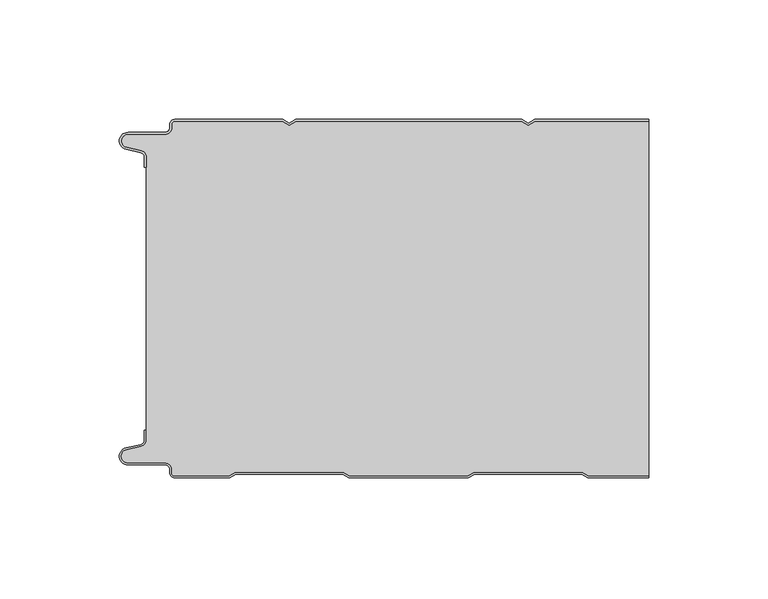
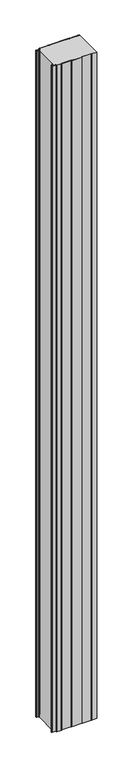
"""IFC4 building model written with IfcOpenShell, lengths in millimetres: plate geometry, PMH_Curtain-PaneL-Standard : ACH_PMH_Stone-wool-Panel_150M."""

import ifcopenshell
import ifcopenshell.guid

model = None  # the IFC model being written
_history = None  # IfcOwnerHistory: only IFC2X3 demands one
_inside = {}  # id of a spatial element -> (the spatial element, [elements in it])
_under = {}  # id of a project, library or spatial element -> (it, [spatial elements below it])
_declared = {}  # id of a project -> (the project, [libraries it declares])
_typed = {}  # id of a type object -> (the type object, [elements of that type])
_made_of = {}  # id of a material, layer set ... -> (it, [elements and type objects made of it])


def new_model(schema):
    """Start an empty IFC model of exactly this schema.

    Asked for "IFC4X3", IfcOpenShell would pick the latest addendum, in which some entities
    have other attributes; the version numbers below select the first issue.
    IFC2X3 requires an IfcOwnerHistory on every rooted entity: one is made here for all.
    """
    global model, _history
    if schema == "IFC4X3":
        model = ifcopenshell.file(schema_version=(4, 3, 0, 0))
    else:
        model = ifcopenshell.file(schema=schema)
    _inside.clear()
    _under.clear()
    _declared.clear()
    _typed.clear()
    _made_of.clear()
    _history = None
    if model.schema == "IFC2X3":
        org = make("IfcOrganization", Name="unknown")
        user = make(
            "IfcPersonAndOrganization",
            ThePerson=make("IfcPerson", FamilyName="unknown"),
            TheOrganization=org,
        )
        app = make(
            "IfcApplication",
            ApplicationDeveloper=org,
            Version="unknown",
            ApplicationFullName="unknown",
            ApplicationIdentifier="unknown",
        )
        _history = make(
            "IfcOwnerHistory",
            OwningUser=user,
            OwningApplication=app,
            ChangeAction="ADDED",
            CreationDate=0,
        )
    return model


def make(cls, **values):
    """One entity of the class cls with the attributes given. An attribute that is None is left unset."""
    return model.create_entity(
        cls, **{name: value for name, value in values.items() if value is not None}
    )


def rooted(cls, **values):
    """An entity with a GlobalId (a new one), such as an element, a storey or a relation."""
    return make(cls, GlobalId=ifcopenshell.guid.new(), OwnerHistory=_history, **values)


def si_unit(unit_type, name, prefix=None):
    """IfcSIUnit, for example si_unit("LENGTHUNIT", "METRE", prefix="MILLI")."""
    return make("IfcSIUnit", UnitType=unit_type, Prefix=prefix, Name=name)


def assignment(units):
    """IfcUnitAssignment: the units of a project."""
    return None if units is None else make("IfcUnitAssignment", Units=units)


def point(xyz):
    """IfcCartesianPoint."""
    return None if xyz is None else make("IfcCartesianPoint", Coordinates=xyz)


def direction(xyz):
    """IfcDirection."""
    return None if xyz is None else make("IfcDirection", DirectionRatios=xyz)


def frame(location, z_axis=None, x_axis=None):
    """IfcAxis2Placement3D, a coordinate frame: its origin and axes. An axis left out is left unset."""
    return make(
        "IfcAxis2Placement3D",
        Location=point(location),
        Axis=direction(z_axis),
        RefDirection=direction(x_axis),
    )


def frame_2d(location, x_axis=None):
    """IfcAxis2Placement2D, a coordinate frame in the plane: its origin and x axis."""
    return make(
        "IfcAxis2Placement2D", Location=point(location), RefDirection=direction(x_axis)
    )


def origin():
    """The frame at (0, 0, 0) with its axes left unset."""
    return frame((0.0, 0.0, 0.0))


def origin_with_axes():
    """The frame at (0, 0, 0) with the z axis (0, 0, 1) and the x axis (1, 0, 0) written out."""
    return frame((0.0, 0.0, 0.0), z_axis=(0.0, 0.0, 1.0), x_axis=(1.0, 0.0, 0.0))


def place(relative_to, where):
    """IfcLocalPlacement: puts the frame where relative to a parent placement (None: the world)."""
    return make(
        "IfcLocalPlacement", PlacementRelTo=relative_to, RelativePlacement=where
    )


def context(
    kind, dimensions, precision=None, world=None, true_north=None, identifier=None
):
    """IfcGeometricRepresentationContext, for example the 3D "Model" context."""
    return make(
        "IfcGeometricRepresentationContext",
        ContextIdentifier=identifier,
        ContextType=kind,
        CoordinateSpaceDimension=dimensions,
        Precision=precision,
        WorldCoordinateSystem=world,
        TrueNorth=true_north,
    )


def project(units=None, contexts=None):
    """IfcProject with its units and contexts."""
    return rooted(
        "IfcProject",
        Name="project",
        RepresentationContexts=contexts,
        UnitsInContext=assignment(units),
    )


def spatial(cls, under=None, at=None, **own):
    """A site, building, storey or space (cls), placed at a placement, below another one or the project."""
    s = rooted(cls, ObjectPlacement=at, **own)
    if under is not None:
        _under.setdefault(under.id(), (under, []))[1].append(s)
    return s


def polyline(points):
    """IfcPolyline through the points."""
    return make("IfcPolyline", Points=[point(p) for p in points])


def circle_curve(where, radius):
    """IfcCircle in the frame where."""
    return make("IfcCircle", Position=where, Radius=radius)


def trimmed(basis, trim1, trim2, sense, master):
    """IfcTrimmedCurve: the piece of a basis curve between two trims."""
    return make(
        "IfcTrimmedCurve",
        BasisCurve=basis,
        Trim1=trim1,
        Trim2=trim2,
        SenseAgreement=sense,
        MasterRepresentation=master,
    )


def segment(curve, same_sense, transition):
    """IfcCompositeCurveSegment."""
    return make(
        "IfcCompositeCurveSegment",
        Transition=transition,
        SameSense=same_sense,
        ParentCurve=curve,
    )


def composite_curve(segments, self_intersect=None):
    """IfcCompositeCurve: segments joined end to end."""
    return make("IfcCompositeCurve", Segments=segments, SelfIntersect=self_intersect)


def outline(outer, holes=None, kind="AREA"):
    """IfcArbitraryClosedProfileDef: a profile drawn as a closed curve; with holes, ...WithVoids."""
    if holes is None:
        return make("IfcArbitraryClosedProfileDef", ProfileType=kind, OuterCurve=outer)
    return make(
        "IfcArbitraryProfileDefWithVoids",
        ProfileType=kind,
        OuterCurve=outer,
        InnerCurves=holes,
    )


def extrude(swept, where, along, depth):
    """IfcExtrudedAreaSolid: the profile swept, set in the frame where, extruded along a direction by depth."""
    return make(
        "IfcExtrudedAreaSolid",
        SweptArea=swept,
        Position=where,
        ExtrudedDirection=direction(along),
        Depth=depth,
    )


def shape(context_of_items, identifier, shape_type, items):
    """IfcShapeRepresentation: the items that make up one representation, for example the "Body"."""
    return make(
        "IfcShapeRepresentation",
        ContextOfItems=context_of_items,
        RepresentationIdentifier=identifier,
        RepresentationType=shape_type,
        Items=items,
    )


def source(mapping_origin, context_of_items, identifier, shape_type, items):
    """IfcRepresentationMap: a shape defined once, which mapped items show again and again."""
    return make(
        "IfcRepresentationMap",
        MappingOrigin=mapping_origin,
        MappedRepresentation=shape(context_of_items, identifier, shape_type, items),
    )


def transform(
    local_origin,
    x_axis=None,
    y_axis=None,
    z_axis=None,
    scale=None,
    scale2=None,
    scale3=None,
    uniform=True,
):
    """IfcCartesianTransformationOperator3D, or its non-uniform kind. x_axis, y_axis, z_axis: its Axis1, 2, 3."""
    if uniform:
        return make(
            "IfcCartesianTransformationOperator3D",
            Axis1=direction(x_axis),
            Axis2=direction(y_axis),
            LocalOrigin=point(local_origin),
            Scale=scale,
            Axis3=direction(z_axis),
        )
    return make(
        "IfcCartesianTransformationOperator3DnonUniform",
        Axis1=direction(x_axis),
        Axis2=direction(y_axis),
        LocalOrigin=point(local_origin),
        Scale=scale,
        Axis3=direction(z_axis),
        Scale2=scale2,
        Scale3=scale3,
    )


def mapped(mapping_source, mapping_target):
    """IfcMappedItem: shows the shape of a source again, moved by a transform."""
    return make(
        "IfcMappedItem", MappingSource=mapping_source, MappingTarget=mapping_target
    )


def made_of(thing, what):
    """Note that an element or type object is made of a material, layer set ...; save() writes the relation."""
    if what is not None:
        _made_of.setdefault(what.id(), (what, []))[1].append(thing)
    return thing


def element(
    cls,
    number,
    at=None,
    inside=None,
    cuts=None,
    type_object=None,
    material=None,
    context=None,
    identifier="Body",
    shape_type=None,
    held_by="IfcProductDefinitionShape",
    body=None,
    shapes=None,
    **own,
):
    """One element of the class cls, such as IfcWall. Its Tag is "e" and its number.

    at: its placement. inside: the storey or other place that contains it. cuts: it is an
    opening in that element (IfcRelVoidsElement). A single representation is given by context,
    identifier, shape_type and body (its items); several are given by shapes. held_by: the class
    of the entity that holds the representations. save() writes the other relations.
    """
    e = rooted(cls, Tag="e%d" % number, ObjectPlacement=at, **own)
    if body is not None:
        shapes = [shape(context, identifier, shape_type, body)]
    if shapes is not None:
        e.Representation = make(held_by, Representations=shapes)
    if inside is not None:
        _inside.setdefault(inside.id(), (inside, []))[1].append(e)
    if cuts is not None:
        rooted(
            "IfcRelVoidsElement", RelatingBuildingElement=cuts, RelatedOpeningElement=e
        )
    if type_object is not None:
        _typed.setdefault(type_object.id(), (type_object, []))[1].append(e)
    return made_of(e, material)


def aggregate(whole, parts):
    """IfcRelAggregates: a whole, such as a stair, and the parts it consists of."""
    return rooted("IfcRelAggregates", RelatingObject=whole, RelatedObjects=parts)


def save(model, path):
    """Write the relations noted so far, then the file.

    IfcRelAggregates (storeys below a building ...), IfcRelContainedInSpatialStructure (elements
    in a storey), IfcRelDefinesByType, IfcRelAssociatesMaterial and IfcRelDeclares: one each for
    every whole, place, type object, material and project.
    """
    for whole, parts in _under.values():
        aggregate(whole, parts)
    for where, things in _inside.values():
        rooted(
            "IfcRelContainedInSpatialStructure",
            RelatedElements=things,
            RelatingStructure=where,
        )
    for kind, things in _typed.values():
        rooted("IfcRelDefinesByType", RelatedObjects=things, RelatingType=kind)
    for what, things in _made_of.values():
        rooted("IfcRelAssociatesMaterial", RelatedObjects=things, RelatingMaterial=what)
    for by, libraries in _declared.values():
        rooted("IfcRelDeclares", RelatingContext=by, RelatedDefinitions=libraries)
    model.write(path)


def plate_0c18fdb0(model_context):
    return source(origin(), model_context, "Body", "SweptSolid", [
        extrude(outline(composite_curve([segment(trimmed(circle_curve(frame_2d((-102.0, -15.878557)), 2.0), [point((-100.0, -15.878557))], [point((-101.5500978, -13.9298169))], True, "CARTESIAN"), True, "CONTINUOUS"), segment(polyline([(-101.5500978, -13.9298169), (-107.7098239, -12.507732)]), True, "CONTINUOUS"), segment(trimmed(circle_curve(frame_2d((-106.9, -9.0)), 3.6), [point((-107.7098239, -12.507732))], [point((-106.9, -5.4))], False, "CARTESIAN"), True, "CONTINUOUS"), segment(polyline([(-106.9, -5.4), (-91.4, -5.4)]), True, "CONTINUOUS"), segment(trimmed(circle_curve(frame_2d((-91.4, -3.4)), 2.0), [point((-91.4, -5.4))], [point((-89.4, -3.4))], True, "CARTESIAN"), True, "CONTINUOUS"), segment(polyline([(-89.4, -3.4), (-89.4, -2.0)]), True, "CONTINUOUS"), segment(trimmed(circle_curve(frame_2d((-87.4, -2.0)), 2.0), [point((-89.4, -2.0))], [point((-87.4, 0.0))], False, "CARTESIAN"), True, "CONTINUOUS"), segment(polyline([(-87.4, 0.0), (-42.0999995, 0.0), (-39.4, -1.5588455), (-36.7000005, 0.0), (57.9000005, 0.0), (60.6, -1.5588455), (63.2999995, 0.0), (111.0, 0.0), (111.0, -0.8), (63.5143588, -0.8), (60.6, -2.482606), (57.6856412, -0.8), (-36.4856412, -0.8), (-39.4, -2.482606), (-42.3143588, -0.8), (-87.4, -0.8)]), True, "CONTINUOUS"), segment(trimmed(circle_curve(frame_2d((-87.4, -2.0)), 1.2), [point((-87.4, -0.8))], [point((-88.6, -2.0))], True, "CARTESIAN"), True, "CONTINUOUS"), segment(polyline([(-88.6, -2.0), (-88.6, -3.4)]), True, "CONTINUOUS"), segment(trimmed(circle_curve(frame_2d((-91.4, -3.4)), 2.8), [point((-88.6, -3.4))], [point((-91.4, -6.2))], False, "CARTESIAN"), True, "CONTINUOUS"), segment(polyline([(-91.4, -6.2), (-106.9, -6.2)]), True, "CONTINUOUS"), segment(trimmed(circle_curve(frame_2d((-106.9, -9.0)), 2.8), [point((-106.9, -6.2))], [point((-107.529863, -11.7282362))], True, "CARTESIAN"), True, "CONTINUOUS"), segment(polyline([(-107.529863, -11.7282362), (-101.370137, -13.150321)]), True, "CONTINUOUS"), segment(trimmed(circle_curve(frame_2d((-102.0, -15.878557)), 2.8), [point((-101.370137, -13.150321))], [point((-99.2, -15.878557))], False, "CARTESIAN"), True, "CONTINUOUS"), segment(polyline([(-99.2, -15.878557), (-99.2, -20.0), (-100.0, -20.0), (-100.0, -15.878557)]), True, "CONTINUOUS")], self_intersect=False)), origin_with_axes(), (0.0, 0.0, 1.0), 3500.0),
        extrude(outline(composite_curve([segment(polyline([(-99.2, -134.121443), (-99.2, -15.8785573)]), True, "CONTINUOUS"), segment(trimmed(circle_curve(frame_2d((-102.0, -15.8785573)), 2.8), [point((-99.2, -15.8785573))], [point((-101.370137, -13.1503212))], True, "CARTESIAN"), True, "CONTINUOUS"), segment(polyline([(-101.370137, -13.1503212), (-107.5298631, -11.7282362)]), True, "CONTINUOUS"), segment(trimmed(circle_curve(frame_2d((-106.9, -9.0)), 2.8), [point((-107.5298631, -11.7282362))], [point((-106.9, -6.2))], False, "CARTESIAN"), True, "CONTINUOUS"), segment(polyline([(-106.9, -6.2), (-91.4000001, -6.2)]), True, "CONTINUOUS"), segment(trimmed(circle_curve(frame_2d((-91.4000001, -3.4)), 2.8), [point((-91.4000001, -6.2))], [point((-88.6000001, -3.4))], True, "CARTESIAN"), True, "CONTINUOUS"), segment(polyline([(-88.6000001, -3.4), (-88.6000001, -2.0)]), True, "CONTINUOUS"), segment(trimmed(circle_curve(frame_2d((-87.4000001, -2.0)), 1.2), [point((-88.6000001, -2.0))], [point((-87.4000001, -0.8))], False, "CARTESIAN"), True, "CONTINUOUS"), segment(polyline([(-87.4000001, -0.8), (-42.3143589, -0.8), (-39.4000001, -2.482606), (-36.4856412, -0.8), (57.6856411, -0.8), (60.5999999, -2.482606), (63.5143588, -0.8), (111.0, -0.8), (111.0, -149.2), (85.8105122, -149.2), (83.2124346, -147.7), (37.9837184, -147.7), (35.3856408, -149.2), (-14.1894878, -149.2), (-16.7875654, -147.7), (-62.0162816, -147.7), (-64.6143592, -149.2), (-87.4, -149.2)]), True, "CONTINUOUS"), segment(trimmed(circle_curve(frame_2d((-87.4, -148.0)), 1.2), [point((-87.4, -149.2))], [point((-88.6, -148.0))], False, "CARTESIAN"), True, "CONTINUOUS"), segment(polyline([(-88.6, -148.0), (-88.6, -146.5999998)]), True, "CONTINUOUS"), segment(trimmed(circle_curve(frame_2d((-91.4, -146.5999998)), 2.8), [point((-88.6, -146.5999998))], [point((-91.4, -143.7999998))], True, "CARTESIAN"), True, "CONTINUOUS"), segment(polyline([(-91.4, -143.7999998), (-106.9, -143.7999998)]), True, "CONTINUOUS"), segment(trimmed(circle_curve(frame_2d((-106.9, -141.0)), 2.7999998), [point((-106.9, -143.7999998))], [point((-107.529863, -138.271764))], False, "CARTESIAN"), True, "CONTINUOUS"), segment(polyline([(-107.529863, -138.271764), (-101.370137, -136.8496792)]), True, "CONTINUOUS"), segment(trimmed(circle_curve(frame_2d((-102.0, -134.121443)), 2.8), [point((-101.370137, -136.8496792))], [point((-99.2, -134.121443))], True, "CARTESIAN"), True, "CONTINUOUS")], self_intersect=False)), origin_with_axes(), (0.0, 0.0, 1.0), 3500.0),
        extrude(outline(composite_curve([segment(trimmed(circle_curve(frame_2d((-87.4, -148.0)), 2.0), [point((-87.4, -150.0))], [point((-89.4, -148.0))], False, "CARTESIAN"), True, "CONTINUOUS"), segment(polyline([(-89.4, -148.0), (-89.4, -146.6)]), True, "CONTINUOUS"), segment(trimmed(circle_curve(frame_2d((-91.4, -146.6)), 2.0), [point((-89.4, -146.6))], [point((-91.4, -144.6))], True, "CARTESIAN"), True, "CONTINUOUS"), segment(polyline([(-91.4, -144.6), (-106.9, -144.6)]), True, "CONTINUOUS"), segment(trimmed(circle_curve(frame_2d((-106.9, -141.0)), 3.6), [point((-106.9, -144.6))], [point((-107.7098239, -137.4922678))], False, "CARTESIAN"), True, "CONTINUOUS"), segment(polyline([(-107.7098239, -137.4922678), (-101.5500979, -136.070183)]), True, "CONTINUOUS"), segment(trimmed(circle_curve(frame_2d((-102.0, -134.121443)), 2.0), [point((-101.5500979, -136.070183))], [point((-100.0, -134.121443))], True, "CARTESIAN"), True, "CONTINUOUS"), segment(polyline([(-100.0, -134.121443), (-100.0, -130.0), (-99.2, -130.0), (-99.2, -134.121443)]), True, "CONTINUOUS"), segment(trimmed(circle_curve(frame_2d((-102.0, -134.121443)), 2.8), [point((-99.2, -134.121443))], [point((-101.370137, -136.8496792))], False, "CARTESIAN"), True, "CONTINUOUS"), segment(polyline([(-101.370137, -136.8496792), (-107.529863, -138.271764)]), True, "CONTINUOUS"), segment(trimmed(circle_curve(frame_2d((-106.9, -141.0)), 2.8), [point((-107.529863, -138.271764))], [point((-106.9, -143.8))], True, "CARTESIAN"), True, "CONTINUOUS"), segment(polyline([(-106.9, -143.8), (-91.4, -143.8)]), True, "CONTINUOUS"), segment(trimmed(circle_curve(frame_2d((-91.4, -146.6)), 2.8), [point((-91.4, -143.8))], [point((-88.6, -146.6))], False, "CARTESIAN"), True, "CONTINUOUS"), segment(polyline([(-88.6, -146.6), (-88.6, -148.0)]), True, "CONTINUOUS"), segment(trimmed(circle_curve(frame_2d((-87.4, -148.0)), 1.2), [point((-88.6, -148.0))], [point((-87.4, -149.2))], True, "CARTESIAN"), True, "CONTINUOUS"), segment(polyline([(-87.4, -149.2), (-64.6143592, -149.2), (-62.0162816, -147.7), (-16.7875654, -147.7), (-14.1894878, -149.2), (35.3856408, -149.2), (37.9837184, -147.7), (83.2124346, -147.7), (85.8105122, -149.2), (111.0, -149.2), (111.0, -150.0), (85.5961529, -150.0), (82.9980753, -148.5), (38.1980777, -148.5), (35.6000001, -150.0), (-14.4038471, -150.0), (-17.0019247, -148.5), (-61.8019223, -148.5), (-64.3999999, -150.0), (-87.4, -150.0)]), True, "CONTINUOUS")], self_intersect=False)), origin_with_axes(), (0.0, 0.0, 1.0), 3500.0),
    ])


if __name__ == "__main__":
    model = new_model("IFC4")
    model_context = context("Model", 3, world=origin())
    ifc_project = project(units=[si_unit("LENGTHUNIT", "METRE", prefix="MILLI")], contexts=[model_context])
    site = spatial("IfcSite", under=ifc_project)
    building = spatial("IfcBuilding", under=site)
    placement = place(None, origin())
    plate_shape = plate_0c18fdb0(model_context)
    element("IfcPlate", 1, ObjectType="PMH_Curtain-PaneL-Standard : ACH_PMH_Stone-wool-Panel_150M", at=placement, inside=building, context=model_context, shape_type="MappedRepresentation", body=[
        mapped(plate_shape, transform((0.0, 0.0, 0.0), x_axis=(1.0, 0.0, 0.0), y_axis=(0.0, 1.0, 0.0), z_axis=(0.0, 0.0, 1.0))),
    ])
    save(model, "model.ifc")
